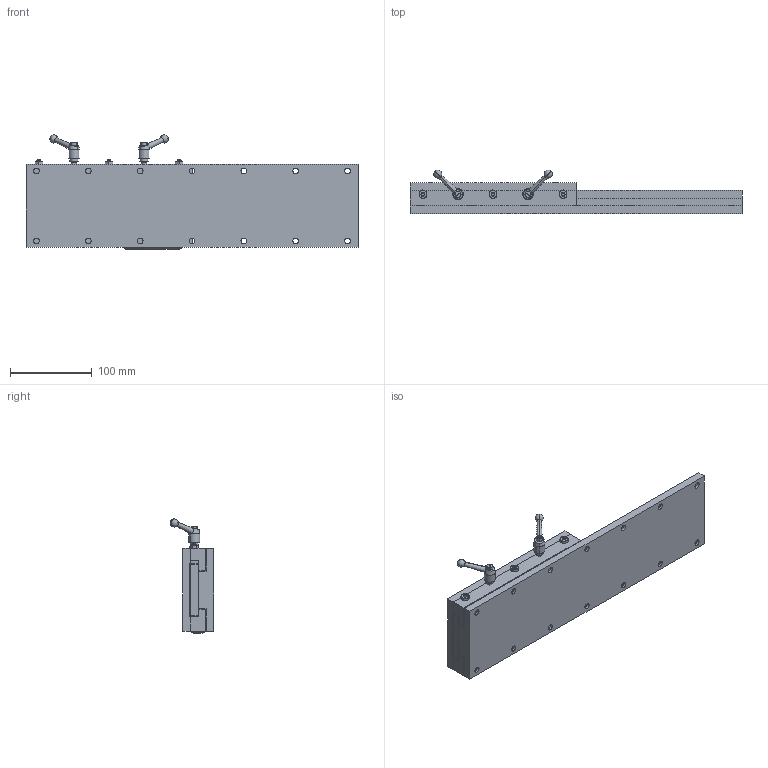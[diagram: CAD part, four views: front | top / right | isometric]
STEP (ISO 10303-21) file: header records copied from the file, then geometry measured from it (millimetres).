
FILE_DESCRIPTION (( 'STEP AP214' ), '1' );
FILE_NAME ('SW04-SL08-BL16-LH.STEP', '2011-06-16T19:29:48', ( '' ), ( '' ), 'SwSTEP 2.0', 'SolidWorks 2011', '' );
FILE_SCHEMA (( 'AUTOMOTIVE_DESIGN' ));
Length unit declared in the file: inch
Products named in the file (13): KHB_56; _MSHXNUT_MSHXNUT 0.190-32-D-N; _SSCUPSOC_SSCUPSKT 0.19-32x0.875-HX-N; Tag; Gen2 Bar_04x08 BAR; Gen2 Adj Gib_04x08 ADJ GIB; Gen2 Gib_04x08 GIB; Gen2 Top plate_04x08 TPLATE; Gen2 BASE_04x16 BASE; Gen2 Hardplate_04x16 HPLATE; Gen2 Baseplate_04x16 BASE; SW04-SL08-BL16-LH; Gen2 SADDLE_04x08 SADDLE with LOCK HANDLES
Assembly tree (17 placements, depth 3):
  SW04-SL08-BL16-LH
    Gen2 SADDLE_04x08 SADDLE with LOCK HANDLES
      _SSCUPSOC_SSCUPSKT 0.19-32x0.875-HX-N  x3
      _MSHXNUT_MSHXNUT 0.190-32-D-N  x3
      Gen2 Gib_04x08 GIB
      KHB_56  x2
      Gen2 Adj Gib_04x08 ADJ GIB
      Gen2 Bar_04x08 BAR
      Gen2 Top plate_04x08 TPLATE
      Tag
    Gen2 BASE_04x16 BASE
      Gen2 Baseplate_04x16 BASE
      Gen2 Hardplate_04x16 HPLATE
Bounding box: 406.4 x 53.43 x 139.75 mm (x, y, z)
Volume: 1184220.7 mm3; surface area: 309951.1 mm2
Topology: 20 solids, 20 shells, 385 faces, 870 edges, 539 vertices
Faces by surface type: plane 165, cylinder 122, cone 90, sphere 4, bspline 4
Entity records: 9285 total; most frequent: CARTESIAN_POINT 2255, DIRECTION 1352, ORIENTED_EDGE 1196, EDGE_CURVE 598, AXIS2_PLACEMENT_3D 512, VERTEX_POINT 385, EDGE_LOOP 337, LINE 328
